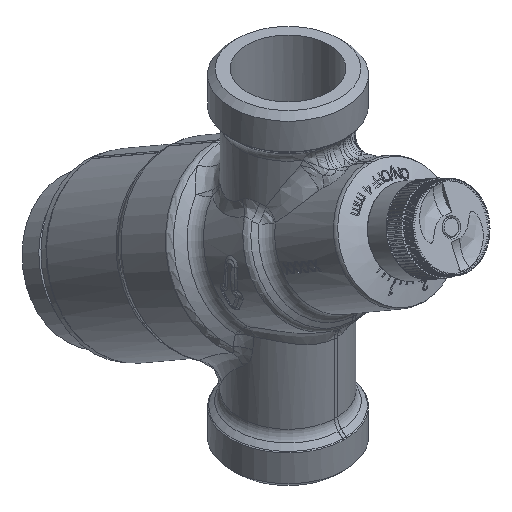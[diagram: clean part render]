
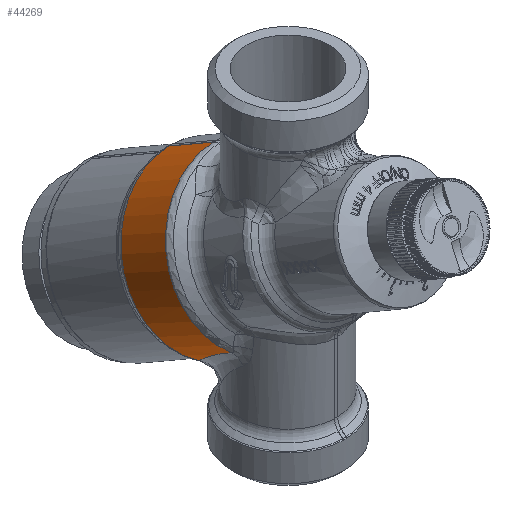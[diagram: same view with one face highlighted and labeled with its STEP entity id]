
A CAD part, isometric view. The second image highlights one B-rep face of the part: STEP entity #44269.
In plain terms, the highlighted cylindrical face has radius 18.65 mm (diameter 37.3 mm), a partial arc.
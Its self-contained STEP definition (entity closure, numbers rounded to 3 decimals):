
#2171=CIRCLE('',#47442,18.65);
#2172=CIRCLE('',#47444,18.65);
#5688=FACE_OUTER_BOUND('',#8256,.T.);
#8256=EDGE_LOOP('',(#31792,#31793,#31794,#31795));
#11011=B_SPLINE_CURVE_WITH_KNOTS('',3,(#72638,#72639,#72640,#72641,#72642,
#72643,#72644,#72645,#72646,#72647),.UNSPECIFIED.,.F.,.F.,(4,2,2,2,4),(0.,
0.003,0.006,0.009,0.012),
 .UNSPECIFIED.);
#12419=LINE('',#75069,#15725);
#15725=VECTOR('',#51624,1000.);
#19402=VERTEX_POINT('',#72442);
#19407=VERTEX_POINT('',#72636);
#19451=VERTEX_POINT('',#75064);
#19452=VERTEX_POINT('',#75068);
#24183=EDGE_CURVE('',#19402,#19407,#11011,.T.);
#24264=EDGE_CURVE('',#19407,#19451,#2171,.T.);
#24265=EDGE_CURVE('',#19451,#19452,#12419,.T.);
#24266=EDGE_CURVE('',#19402,#19452,#2172,.T.);
#31792=ORIENTED_EDGE('',*,*,#24264,.T.);
#31793=ORIENTED_EDGE('',*,*,#24265,.T.);
#31794=ORIENTED_EDGE('',*,*,#24266,.F.);
#31795=ORIENTED_EDGE('',*,*,#24183,.T.);
#43509=CYLINDRICAL_SURFACE('',#47443,18.65);
#44269=ADVANCED_FACE('',(#5688),#43509,.T.);
#47442=AXIS2_PLACEMENT_3D('',#75066,#51620,#51621);
#47443=AXIS2_PLACEMENT_3D('',#75067,#51622,#51623);
#47444=AXIS2_PLACEMENT_3D('',#75070,#51625,#51626);
#51620=DIRECTION('center_axis',(0.,0.866,
-0.5));
#51621=DIRECTION('ref_axis',(0.,0.5,0.866));
#51622=DIRECTION('center_axis',(0.,0.866,
-0.5));
#51623=DIRECTION('ref_axis',(0.,0.5,0.866));
#51624=DIRECTION('',(0.,0.866,-0.5));
#51625=DIRECTION('center_axis',(0.,0.866,
-0.5));
#51626=DIRECTION('ref_axis',(0.,0.5,0.866));
#72442=CARTESIAN_POINT('',(-10.495,10.188,-23.684));
#72636=CARTESIAN_POINT('',(-12.518,0.647,-16.336));
#72638=CARTESIAN_POINT('Ctrl Pts',(-10.495,10.188,-23.684));
#72639=CARTESIAN_POINT('Ctrl Pts',(-10.849,9.495,-23.006));
#72640=CARTESIAN_POINT('Ctrl Pts',(-11.156,8.782,-22.332));
#72641=CARTESIAN_POINT('Ctrl Pts',(-11.684,7.305,-21.007));
#72642=CARTESIAN_POINT('Ctrl Pts',(-11.906,6.541,-20.354));
#72643=CARTESIAN_POINT('Ctrl Pts',(-12.259,4.95,-19.09));
#72644=CARTESIAN_POINT('Ctrl Pts',(-12.388,4.133,-18.485));
#72645=CARTESIAN_POINT('Ctrl Pts',(-12.54,2.439,-17.349));
#72646=CARTESIAN_POINT('Ctrl Pts',(-12.564,1.563,-16.818));
#72647=CARTESIAN_POINT('Ctrl Pts',(-12.518,0.647,-16.336));
#75064=CARTESIAN_POINT('',(-0.399,16.882,11.783));
#75066=CARTESIAN_POINT('Origin',(0.,7.559,
-4.364));
#75067=CARTESIAN_POINT('Origin',(0.,-1.386,
0.8));
#75068=CARTESIAN_POINT('',(-0.399,27.219,5.815));
#75069=CARTESIAN_POINT('',(-0.399,7.937,16.948));
#75070=CARTESIAN_POINT('Origin',(0.,17.896,
-10.332));
